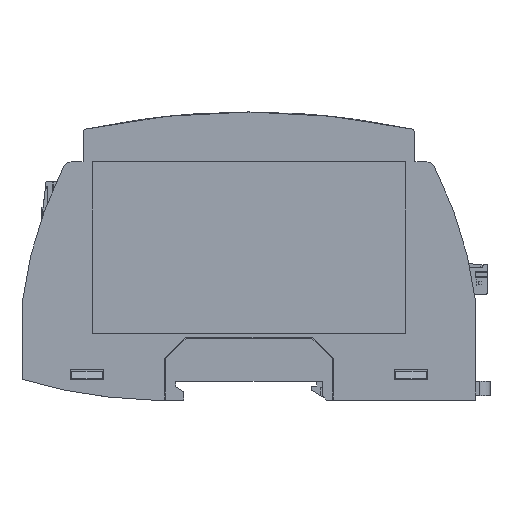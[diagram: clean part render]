
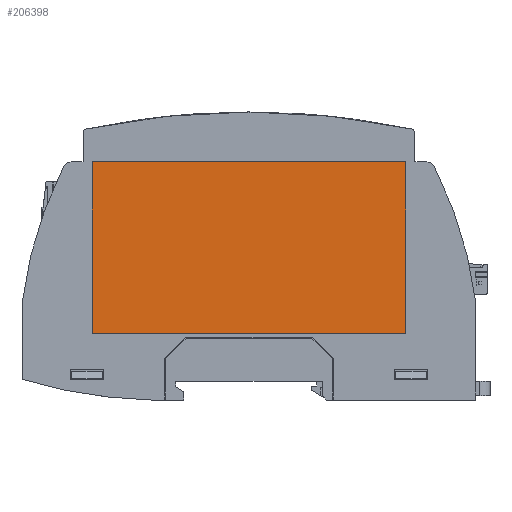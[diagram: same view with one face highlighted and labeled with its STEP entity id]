
A CAD part, left-side view. The second image highlights one B-rep face of the part: STEP entity #206398.
In plain terms, the highlighted planar face has unit normal (-1, 0, 0).
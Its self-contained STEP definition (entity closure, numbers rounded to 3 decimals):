
#2010 = VECTOR ( 'NONE', #127236, 1000. ) ;
#5108 = PLANE ( 'NONE',  #145777 ) ;
#53693 = VERTEX_POINT ( 'NONE', #307297 ) ;
#55260 = EDGE_CURVE ( 'NONE', #224886, #53693, #92226, .T. ) ;
#61033 = ORIENTED_EDGE ( 'NONE', *, *, #87921, .T. ) ;
#82541 = CARTESIAN_POINT ( 'NONE',  ( -74.531, 42.939, 208.7 ) ) ;
#84748 = CARTESIAN_POINT ( 'NONE',  ( -74.531, -33.061, 167.2 ) ) ;
#87921 = EDGE_CURVE ( 'NONE', #266890, #273618, #163335, .T. ) ;
#92226 = LINE ( 'NONE', #82541, #154105 ) ;
#106343 = ORIENTED_EDGE ( 'NONE', *, *, #269670, .T. ) ;
#109150 = DIRECTION ( 'NONE',  ( 0., 1., 0. ) ) ;
#111208 = CARTESIAN_POINT ( 'NONE',  ( -74.531, -33.061, 167.2 ) ) ;
#122283 = ORIENTED_EDGE ( 'NONE', *, *, #231589, .T. ) ;
#127236 = DIRECTION ( 'NONE',  ( 0., 0., -1. ) ) ;
#137628 = DIRECTION ( 'NONE',  ( 0., 0., 1. ) ) ;
#145777 = AXIS2_PLACEMENT_3D ( 'NONE', #111208, #295632, #137628 ) ;
#154105 = VECTOR ( 'NONE', #109150, 1000. ) ;
#160978 = FACE_OUTER_BOUND ( 'NONE', #246398, .T. ) ;
#163335 = LINE ( 'NONE', #203812, #233335 ) ;
#183370 = LINE ( 'NONE', #84748, #208164 ) ;
#203812 = CARTESIAN_POINT ( 'NONE',  ( -74.531, 42.939, 167.2 ) ) ;
#206398 = ADVANCED_FACE ( 'NONE', ( #160978 ), #5108, .T. ) ;
#208164 = VECTOR ( 'NONE', #269237, 1000. ) ;
#209486 = CARTESIAN_POINT ( 'NONE',  ( -74.531, -33.061, 208.7 ) ) ;
#224886 = VERTEX_POINT ( 'NONE', #209486 ) ;
#230292 = DIRECTION ( 'NONE',  ( 0., -1., 0. ) ) ;
#231589 = EDGE_CURVE ( 'NONE', #53693, #266890, #274275, .T. ) ;
#233335 = VECTOR ( 'NONE', #230292, 1000. ) ;
#246398 = EDGE_LOOP ( 'NONE', ( #61033, #106343, #284633, #122283 ) ) ;
#248288 = CARTESIAN_POINT ( 'NONE',  ( -74.531, -33.061, 167.2 ) ) ;
#249823 = CARTESIAN_POINT ( 'NONE',  ( -74.531, 42.939, 167.2 ) ) ;
#266890 = VERTEX_POINT ( 'NONE', #249823 ) ;
#269237 = DIRECTION ( 'NONE',  ( 0., 0., 1. ) ) ;
#269670 = EDGE_CURVE ( 'NONE', #273618, #224886, #183370, .T. ) ;
#273618 = VERTEX_POINT ( 'NONE', #248288 ) ;
#274275 = LINE ( 'NONE', #311804, #2010 ) ;
#284633 = ORIENTED_EDGE ( 'NONE', *, *, #55260, .T. ) ;
#295632 = DIRECTION ( 'NONE',  ( -1., 0., 0. ) ) ;
#307297 = CARTESIAN_POINT ( 'NONE',  ( -74.531, 42.939, 208.7 ) ) ;
#311804 = CARTESIAN_POINT ( 'NONE',  ( -74.531, 42.939, 167.2 ) ) ;
